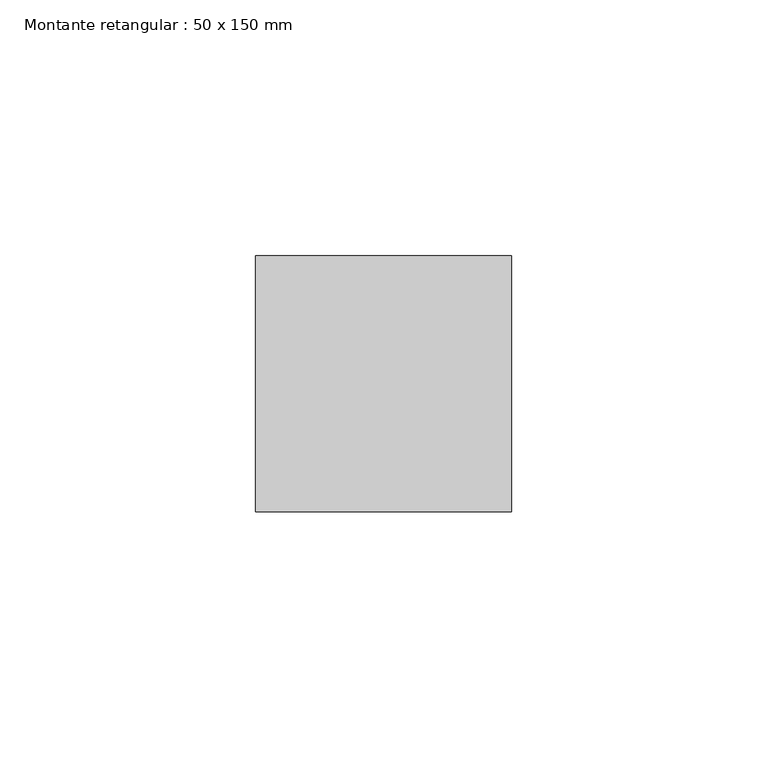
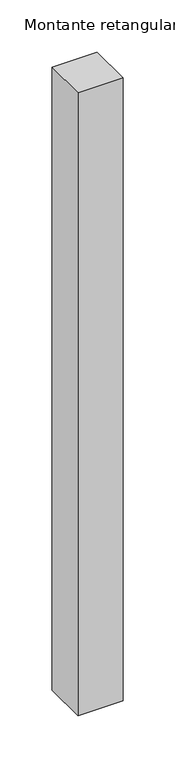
"""IFC4 building model written with IfcOpenShell, lengths in millimetres: member geometry, Montante retangular : 50 x 150 mm."""

import ifcopenshell
import ifcopenshell.guid

model = None  # the IFC model being written
_history = None  # IfcOwnerHistory: only IFC2X3 demands one
_inside = {}  # id of a spatial element -> (the spatial element, [elements in it])
_under = {}  # id of a project, library or spatial element -> (it, [spatial elements below it])
_declared = {}  # id of a project -> (the project, [libraries it declares])
_typed = {}  # id of a type object -> (the type object, [elements of that type])
_made_of = {}  # id of a material, layer set ... -> (it, [elements and type objects made of it])


def new_model(schema):
    """Start an empty IFC model of exactly this schema.

    Asked for "IFC4X3", IfcOpenShell would pick the latest addendum, in which some entities
    have other attributes; the version numbers below select the first issue.
    IFC2X3 requires an IfcOwnerHistory on every rooted entity: one is made here for all.
    """
    global model, _history
    if schema == "IFC4X3":
        model = ifcopenshell.file(schema_version=(4, 3, 0, 0))
    else:
        model = ifcopenshell.file(schema=schema)
    _inside.clear()
    _under.clear()
    _declared.clear()
    _typed.clear()
    _made_of.clear()
    _history = None
    if model.schema == "IFC2X3":
        org = make("IfcOrganization", Name="unknown")
        user = make(
            "IfcPersonAndOrganization",
            ThePerson=make("IfcPerson", FamilyName="unknown"),
            TheOrganization=org,
        )
        app = make(
            "IfcApplication",
            ApplicationDeveloper=org,
            Version="unknown",
            ApplicationFullName="unknown",
            ApplicationIdentifier="unknown",
        )
        _history = make(
            "IfcOwnerHistory",
            OwningUser=user,
            OwningApplication=app,
            ChangeAction="ADDED",
            CreationDate=0,
        )
    return model


def make(cls, **values):
    """One entity of the class cls with the attributes given. An attribute that is None is left unset."""
    return model.create_entity(
        cls, **{name: value for name, value in values.items() if value is not None}
    )


def rooted(cls, **values):
    """An entity with a GlobalId (a new one), such as an element, a storey or a relation."""
    return make(cls, GlobalId=ifcopenshell.guid.new(), OwnerHistory=_history, **values)


def si_unit(unit_type, name, prefix=None):
    """IfcSIUnit, for example si_unit("LENGTHUNIT", "METRE", prefix="MILLI")."""
    return make("IfcSIUnit", UnitType=unit_type, Prefix=prefix, Name=name)


def assignment(units):
    """IfcUnitAssignment: the units of a project."""
    return None if units is None else make("IfcUnitAssignment", Units=units)


def point(xyz):
    """IfcCartesianPoint."""
    return None if xyz is None else make("IfcCartesianPoint", Coordinates=xyz)


def direction(xyz):
    """IfcDirection."""
    return None if xyz is None else make("IfcDirection", DirectionRatios=xyz)


def frame(location, z_axis=None, x_axis=None):
    """IfcAxis2Placement3D, a coordinate frame: its origin and axes. An axis left out is left unset."""
    return make(
        "IfcAxis2Placement3D",
        Location=point(location),
        Axis=direction(z_axis),
        RefDirection=direction(x_axis),
    )


def origin():
    """The frame at (0, 0, 0) with its axes left unset."""
    return frame((0.0, 0.0, 0.0))


def place(relative_to, where):
    """IfcLocalPlacement: puts the frame where relative to a parent placement (None: the world)."""
    return make(
        "IfcLocalPlacement", PlacementRelTo=relative_to, RelativePlacement=where
    )


def context(
    kind, dimensions, precision=None, world=None, true_north=None, identifier=None
):
    """IfcGeometricRepresentationContext, for example the 3D "Model" context."""
    return make(
        "IfcGeometricRepresentationContext",
        ContextIdentifier=identifier,
        ContextType=kind,
        CoordinateSpaceDimension=dimensions,
        Precision=precision,
        WorldCoordinateSystem=world,
        TrueNorth=true_north,
    )


def project(units=None, contexts=None):
    """IfcProject with its units and contexts."""
    return rooted(
        "IfcProject",
        Name="project",
        RepresentationContexts=contexts,
        UnitsInContext=assignment(units),
    )


def spatial(cls, under=None, at=None, **own):
    """A site, building, storey or space (cls), placed at a placement, below another one or the project."""
    s = rooted(cls, ObjectPlacement=at, **own)
    if under is not None:
        _under.setdefault(under.id(), (under, []))[1].append(s)
    return s


def polyline(points):
    """IfcPolyline through the points."""
    return make("IfcPolyline", Points=[point(p) for p in points])


def outline(outer, holes=None, kind="AREA"):
    """IfcArbitraryClosedProfileDef: a profile drawn as a closed curve; with holes, ...WithVoids."""
    if holes is None:
        return make("IfcArbitraryClosedProfileDef", ProfileType=kind, OuterCurve=outer)
    return make(
        "IfcArbitraryProfileDefWithVoids",
        ProfileType=kind,
        OuterCurve=outer,
        InnerCurves=holes,
    )


def extrude(swept, where, along, depth):
    """IfcExtrudedAreaSolid: the profile swept, set in the frame where, extruded along a direction by depth."""
    return make(
        "IfcExtrudedAreaSolid",
        SweptArea=swept,
        Position=where,
        ExtrudedDirection=direction(along),
        Depth=depth,
    )


def shape(context_of_items, identifier, shape_type, items):
    """IfcShapeRepresentation: the items that make up one representation, for example the "Body"."""
    return make(
        "IfcShapeRepresentation",
        ContextOfItems=context_of_items,
        RepresentationIdentifier=identifier,
        RepresentationType=shape_type,
        Items=items,
    )


def source(mapping_origin, context_of_items, identifier, shape_type, items):
    """IfcRepresentationMap: a shape defined once, which mapped items show again and again."""
    return make(
        "IfcRepresentationMap",
        MappingOrigin=mapping_origin,
        MappedRepresentation=shape(context_of_items, identifier, shape_type, items),
    )


def transform(
    local_origin,
    x_axis=None,
    y_axis=None,
    z_axis=None,
    scale=None,
    scale2=None,
    scale3=None,
    uniform=True,
):
    """IfcCartesianTransformationOperator3D, or its non-uniform kind. x_axis, y_axis, z_axis: its Axis1, 2, 3."""
    if uniform:
        return make(
            "IfcCartesianTransformationOperator3D",
            Axis1=direction(x_axis),
            Axis2=direction(y_axis),
            LocalOrigin=point(local_origin),
            Scale=scale,
            Axis3=direction(z_axis),
        )
    return make(
        "IfcCartesianTransformationOperator3DnonUniform",
        Axis1=direction(x_axis),
        Axis2=direction(y_axis),
        LocalOrigin=point(local_origin),
        Scale=scale,
        Axis3=direction(z_axis),
        Scale2=scale2,
        Scale3=scale3,
    )


def mapped(mapping_source, mapping_target):
    """IfcMappedItem: shows the shape of a source again, moved by a transform."""
    return make(
        "IfcMappedItem", MappingSource=mapping_source, MappingTarget=mapping_target
    )


def made_of(thing, what):
    """Note that an element or type object is made of a material, layer set ...; save() writes the relation."""
    if what is not None:
        _made_of.setdefault(what.id(), (what, []))[1].append(thing)
    return thing


def element(
    cls,
    number,
    at=None,
    inside=None,
    cuts=None,
    type_object=None,
    material=None,
    context=None,
    identifier="Body",
    shape_type=None,
    held_by="IfcProductDefinitionShape",
    body=None,
    shapes=None,
    **own,
):
    """One element of the class cls, such as IfcWall. Its Tag is "e" and its number.

    at: its placement. inside: the storey or other place that contains it. cuts: it is an
    opening in that element (IfcRelVoidsElement). A single representation is given by context,
    identifier, shape_type and body (its items); several are given by shapes. held_by: the class
    of the entity that holds the representations. save() writes the other relations.
    """
    e = rooted(cls, Tag="e%d" % number, ObjectPlacement=at, **own)
    if body is not None:
        shapes = [shape(context, identifier, shape_type, body)]
    if shapes is not None:
        e.Representation = make(held_by, Representations=shapes)
    if inside is not None:
        _inside.setdefault(inside.id(), (inside, []))[1].append(e)
    if cuts is not None:
        rooted(
            "IfcRelVoidsElement", RelatingBuildingElement=cuts, RelatedOpeningElement=e
        )
    if type_object is not None:
        _typed.setdefault(type_object.id(), (type_object, []))[1].append(e)
    return made_of(e, material)


def aggregate(whole, parts):
    """IfcRelAggregates: a whole, such as a stair, and the parts it consists of."""
    return rooted("IfcRelAggregates", RelatingObject=whole, RelatedObjects=parts)


def save(model, path):
    """Write the relations noted so far, then the file.

    IfcRelAggregates (storeys below a building ...), IfcRelContainedInSpatialStructure (elements
    in a storey), IfcRelDefinesByType, IfcRelAssociatesMaterial and IfcRelDeclares: one each for
    every whole, place, type object, material and project.
    """
    for whole, parts in _under.values():
        aggregate(whole, parts)
    for where, things in _inside.values():
        rooted(
            "IfcRelContainedInSpatialStructure",
            RelatedElements=things,
            RelatingStructure=where,
        )
    for kind, things in _typed.values():
        rooted("IfcRelDefinesByType", RelatedObjects=things, RelatingType=kind)
    for what, things in _made_of.values():
        rooted("IfcRelAssociatesMaterial", RelatedObjects=things, RelatingMaterial=what)
    for by, libraries in _declared.values():
        rooted("IfcRelDeclares", RelatingContext=by, RelatedDefinitions=libraries)
    model.write(path)


def montante_retangular_50_x_150_mm_b0ff2881(model_context):
    return source(origin(), model_context, "Body", "SweptSolid", [
        extrude(outline(polyline([(0.0, 25.0), (0.0, -25.0), (-50.0, -25.0), (-50.0, 25.0), (0.0, 25.0)])), frame((0.0, 0.0, -730.0), z_axis=(0.0, 0.0, 1.0), x_axis=(1.0, 0.0, 0.0)), (0.0, 0.0, 1.0), 730.0),
    ])


if __name__ == "__main__":
    model = new_model("IFC4")
    model_context = context("Model", 3, world=origin())
    ifc_project = project(units=[si_unit("LENGTHUNIT", "METRE", prefix="MILLI")], contexts=[model_context])
    site = spatial("IfcSite", under=ifc_project)
    building = spatial("IfcBuilding", under=site)
    placement = place(None, origin())
    montante_retangular_50_x_150_mm_shape = montante_retangular_50_x_150_mm_b0ff2881(model_context)
    element("IfcMember", 1, ObjectType="Montante retangular : 50 x 150 mm", at=placement, inside=building, context=model_context, shape_type="MappedRepresentation", body=[
        mapped(montante_retangular_50_x_150_mm_shape, transform((0.0, 0.0, 0.0), x_axis=(1.0, 0.0, 0.0), y_axis=(0.0, 1.0, 0.0), z_axis=(0.0, 0.0, 1.0))),
    ])
    save(model, "model.ifc")
